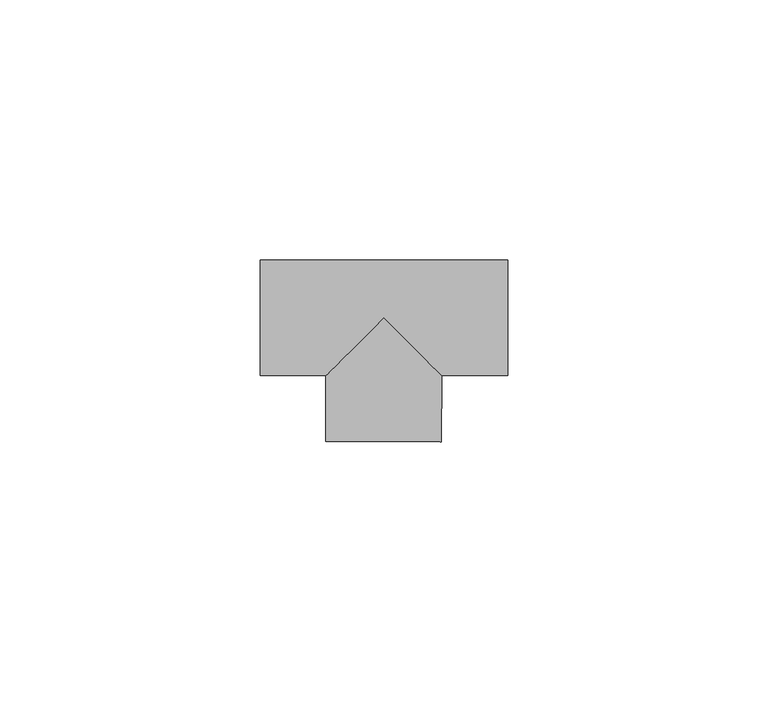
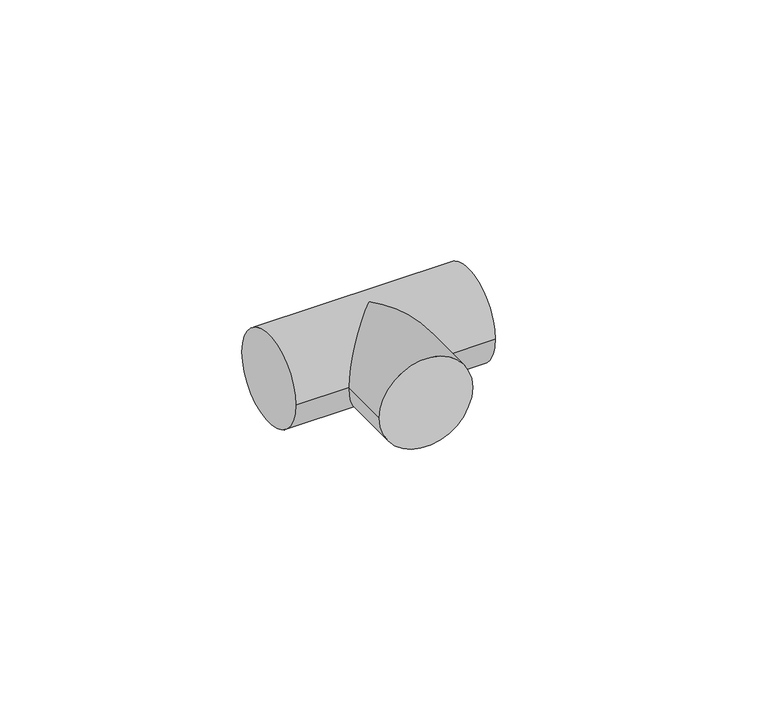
"""IFC4 building model written with IfcOpenShell, lengths in millimetres: pipe fitting geometry, M_Te - Genérica : Estándar."""

from ifc_helpers import new_model, si_unit, frame, origin, place, context, project, spatial, circle_curve, ellipse_curve, source, transform, mapped, element, save
from ifc_brep_helpers import plane_surface, cylinder_surface, advanced_brep


def pipe_fitting_fdf44402(model_context):
    return source(origin(), model_context, "Body", "AdvancedBrep", [
        advanced_brep(
        [(-23.8125, -11.1125, 0.0), (-23.8125, 11.1125, 0.0), (23.8125, -11.1125, 0.0), (23.8125, 11.1125, 0.0), (-11.1493896, -11.1125, 0.0), (0.0, 0.0, 11.1125), (11.0757324, -11.1125, 0.0), (0.0, 0.0, -11.1125), (-11.1913569, -23.7755408, 0.0), (11.033521, -23.8491976, 0.0)],
        [
            (0, 1, circle_curve(frame((-23.8125, 0.0, 0.0), z_axis=(-1.0, 0.0, 0.0), x_axis=(0.0, 1.0, 0.0)), 11.1125)),
            (1, 0, circle_curve(frame((-23.8125, 0.0, 0.0), z_axis=(-1.0, 0.0, 0.0), x_axis=(0.0, 1.0, 0.0)), 11.1125)),
            (2, 3, circle_curve(frame((23.8125, 0.0, 0.0), z_axis=(1.0, 0.0, 0.0), x_axis=(0.0, 1.0, 0.0)), 11.1125)),
            (3, 2, circle_curve(frame((23.8125, 0.0, 0.0), z_axis=(1.0, 0.0, 0.0), x_axis=(0.0, 1.0, 0.0)), 11.1125)),
            (0, 4),
            (4, 5, ellipse_curve(frame((0.0, 0.0, 0.0), z_axis=(-0.7059340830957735, 0.7082775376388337, 0.0), x_axis=(-0.7082775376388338, -0.7059340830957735, 0.0)), 15.7415547, 11.1125)),
            (5, 6, ellipse_curve(frame((0.0, 0.0, 0.0), z_axis=(0.7082775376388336, 0.7059340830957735, 0.0), x_axis=(-0.7059340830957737, 0.7082775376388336, 0.0)), 15.6894712, 11.1125)),
            (6, 2),
            (3, 1),
            (6, 7, ellipse_curve(frame((0.0, 0.0, 0.0), z_axis=(0.7082775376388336, 0.7059340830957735, 0.0), x_axis=(-0.7059340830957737, 0.7082775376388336, 0.0)), 15.6894712, 11.1125)),
            (7, 4, ellipse_curve(frame((0.0, 0.0, 0.0), z_axis=(-0.7059340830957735, 0.7082775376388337, 0.0), x_axis=(-0.7082775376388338, -0.7059340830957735, 0.0)), 15.7415547, 11.1125)),
            (8, 9, circle_curve(frame((-0.078918, -23.8123692, 0.0), z_axis=(-0.003314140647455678, -0.9999945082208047, 0.0), x_axis=(0.9999945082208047, -0.003314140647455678, 0.0)), 11.1125)),
            (9, 8, circle_curve(frame((-0.078918, -23.8123692, 0.0), z_axis=(-0.003314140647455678, -0.9999945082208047, 0.0), x_axis=(0.9999945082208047, -0.003314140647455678, 0.0)), 11.1125)),
            (9, 6),
            (4, 8),
        ],
        [
            plane_surface(frame((-23.8125, 0.0, 0.0), z_axis=(-1.0, 0.0, 0.0), x_axis=(0.0, 0.0, 1.0))),
            plane_surface(frame((23.8125, 0.0, 0.0), z_axis=(1.0, 0.0, 0.0), x_axis=(0.0, 0.0, 1.0))),
            cylinder_surface(frame((-23.8125, 0.0, 0.0), z_axis=(-1.0, 0.0, 0.0), x_axis=(0.0, 1.0, 0.0)), 11.1125),
            plane_surface(frame((-0.078918, -23.8123692, 0.0), z_axis=(-0.0033141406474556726, -0.9999945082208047, 0.0), x_axis=(0.0, 0.0, 1.0))),
            cylinder_surface(frame((0.0, 0.0, 0.0), z_axis=(0.003314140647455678, 0.9999945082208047, 0.0), x_axis=(0.9999945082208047, -0.003314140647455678, 0.0)), 11.1125),
        ],
        [
            (0, [[1, 2]]),
            (1, [[3, 4]]),
            (2, [[-1, 5, 6, 7, 8, -4, 9]]),
            (2, [[-2, -9, -3, -8, 10, 11, -5]]),
            (3, [[12, 13]]),
            (4, [[-13, 14, -7, -6, 15]]),
            (4, [[-12, -15, -11, -10, -14]]),
        ],
    ),
    ])


if __name__ == "__main__":
    model = new_model("IFC4")
    model_context = context("Model", 3, world=origin())
    ifc_project = project(units=[si_unit("LENGTHUNIT", "METRE", prefix="MILLI")], contexts=[model_context])
    site = spatial("IfcSite", under=ifc_project)
    building = spatial("IfcBuilding", under=site)
    placement = place(None, origin())
    pipe_fitting_shape = pipe_fitting_fdf44402(model_context)
    element("IfcPipeFitting", 1, ObjectType="M_Te - Genérica : Estándar", at=placement, inside=building, context=model_context, shape_type="MappedRepresentation", body=[
        mapped(pipe_fitting_shape, transform((0.0, 0.0, 0.0), x_axis=(1.0, 0.0, 0.0), y_axis=(0.0, 1.0, 0.0), z_axis=(0.0, 0.0, 1.0))),
    ])
    save(model, "model.ifc")
